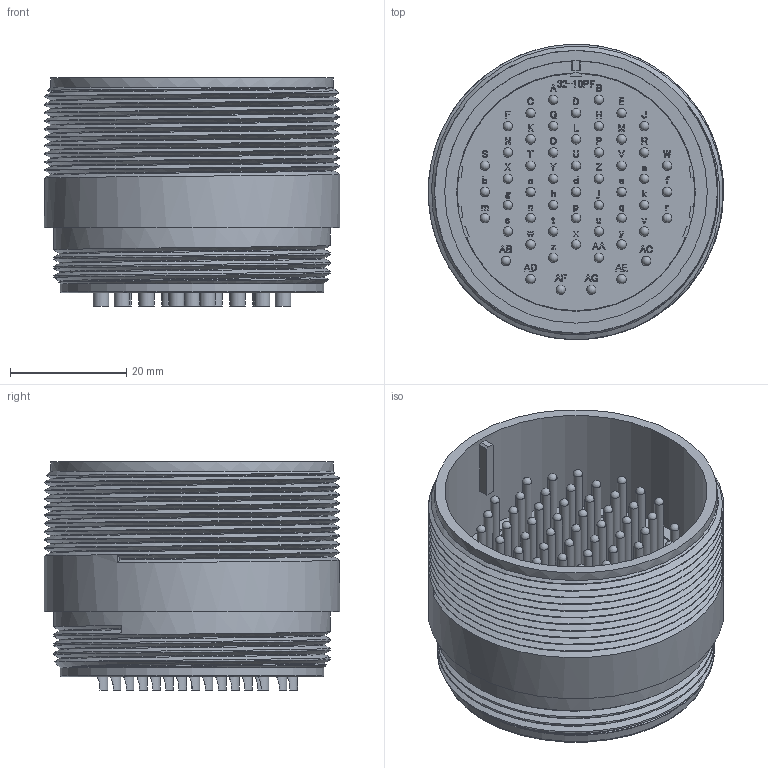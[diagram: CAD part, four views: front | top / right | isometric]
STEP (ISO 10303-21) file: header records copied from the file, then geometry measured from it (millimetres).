
FILE_DESCRIPTION (( 'STEP AP203' ), '1' );
FILE_NAME ('DMS3101A32A-10P(D263).STEP', '2022-02-15T07:57:22', ( '' ), ( '' ), 'SwSTEP 2.0', 'SolidWorks 2018', '' );
FILE_SCHEMA (( 'CONFIG_CONTROL_DESIGN' ));
Length unit declared in the file: millimetre
Products named in the file (1): DMS3101A32A-10P(D263)
Bounding box: 50.76 x 50.76 x 39.2 mm (x, y, z)
Volume: 36129.5 mm3; surface area: 24739.1 mm2
Topology: 1 solids, 1 shells, 3140 faces, 8477 edges, 5596 vertices
Faces by surface type: plane 1782, bspline 1001, cylinder 300, sphere 54, cone 2, torus 1
Full cylindrical faces by diameter (mm): 1.59 x54, 38.1 x1, 41 x1, 42.93 x1, 45.12 x1, 45.3 x1, 47.58 x3, 48.6 x1, 50.76 x9
Entity records: 128045 total; most frequent: CARTESIAN_POINT 57449, ORIENTED_EDGE 16416, DIRECTION 10708, EDGE_CURVE 8208, VERTEX_POINT 5512, VECTOR 5510, LINE 5510, EDGE_LOOP 3558
